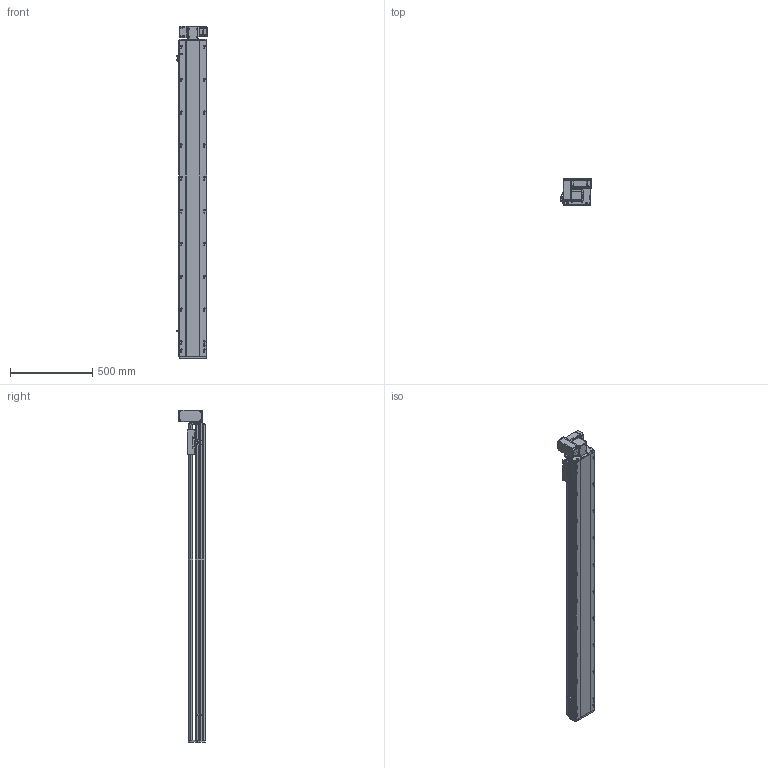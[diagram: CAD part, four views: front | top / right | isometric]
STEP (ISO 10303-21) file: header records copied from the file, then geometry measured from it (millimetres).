
FILE_DESCRIPTION (( 'STEP AP214' ), '1' );
FILE_NAME ('RTB17S-XX-1650-LW-M40-C4.STEP', '2025-12-11T07:09:36', ( '' ), ( '' ), 'SwSTEP 2.0', 'SolidWorks 2018', '' );
FILE_SCHEMA (( 'AUTOMOTIVE_DESIGN' ));
Length unit declared in the file: millimetre
Products named in the file (14): RTB17S-LW-々湍釱蚾饜-400W^RTB17S-XX-XX-LW-M40-C4; OMRON EE-SX672 传感器^RTB17S-XX-XX-LW-M40-C4; RTB14-L-017P^RTB17S-LW-々湍釱蚾饜-400W_RTB17S-XX-XX-LW-M40-C4; RTB17S-L-007奻裔^RTB17S-XX-XX-LW-M40-C4; RTB17S-L-004佪裝蹟譫蟀諉釱^RTB17S-XX-XX-LW-M40-C4; RTB17S-L-001耜醱啣^RTB17S-XX-XX-LW-M40-C4; RTB14-L-008-M20--萇儂啣^RTB17S-LW-々湍釱蚾饜-400W_RTB17S-XX-XX-LW-M40-C4; RTB14-L-018P^RTB17S-LW-々湍釱蚾饜-400W_RTB17S-XX-XX-LW-M40-C4; RTB17S-XX-1650-LW-M40-C4; RTB14-L-005P--轴承塑胶压盖^RTB17S-LW-皮带座装配-400W_RTB17S-XX-XX-LW-M40-C4; RTH13-BL-012覜茼え俋离^RTB17S-XX-XX-LW-M40-C4; 400W侜督萇儂^RTB17S-XX-XX-LW-M40-C4; RTB17-R-011菁釱^RTB17S-XX-XX-LW-M40-C4; RTB17S-L-014-T20--々湍釱^RTB17S-LW-々湍釱蚾饜-400W_RTB17S-XX-XX-LW-M40-C4
Assembly tree (16 placements, depth 3):
  RTB17S-XX-1650-LW-M40-C4
    RTB17-R-011菁釱^RTB17S-XX-XX-LW-M40-C4
    RTB17S-L-007奻裔^RTB17S-XX-XX-LW-M40-C4
    OMRON EE-SX672 传感器^RTB17S-XX-XX-LW-M40-C4  x3
    RTB17S-L-001耜醱啣^RTB17S-XX-XX-LW-M40-C4
    400W侜督萇儂^RTB17S-XX-XX-LW-M40-C4
    RTB17S-L-004佪裝蹟譫蟀諉釱^RTB17S-XX-XX-LW-M40-C4
    RTH13-BL-012覜茼え俋离^RTB17S-XX-XX-LW-M40-C4
    RTB17S-LW-々湍釱蚾饜-400W^RTB17S-XX-XX-LW-M40-C4
      RTB17S-L-014-T20--々湍釱^RTB17S-LW-々湍釱蚾饜-400W_RTB17S-XX-XX-LW-M40-C4
      RTB14-L-005P--轴承塑胶压盖^RTB17S-LW-皮带座装配-400W_RTB17S-XX-XX-LW-M40-C4
      RTB14-L-008-M20--萇儂啣^RTB17S-LW-々湍釱蚾饜-400W_RTB17S-XX-XX-LW-M40-C4
      RTB14-L-017P^RTB17S-LW-々湍釱蚾饜-400W_RTB17S-XX-XX-LW-M40-C4  x2
      RTB14-L-018P^RTB17S-LW-々湍釱蚾饜-400W_RTB17S-XX-XX-LW-M40-C4
Bounding box: 186 x 160.5 x 2022.5 mm (x, y, z)
Volume: 17669812 mm3; surface area: 2077902.9 mm2
Topology: 15 solids, 15 shells, 2269 faces, 6303 edges, 4113 vertices
Faces by surface type: plane 1076, cylinder 745, bspline 301, cone 139, torus 8
Entity records: 65705 total; most frequent: CARTESIAN_POINT 18508, ORIENTED_EDGE 9450, DIRECTION 8756, EDGE_CURVE 4725, VERTEX_POINT 3101, AXIS2_PLACEMENT_3D 3031, VECTOR 2694, LINE 2694
